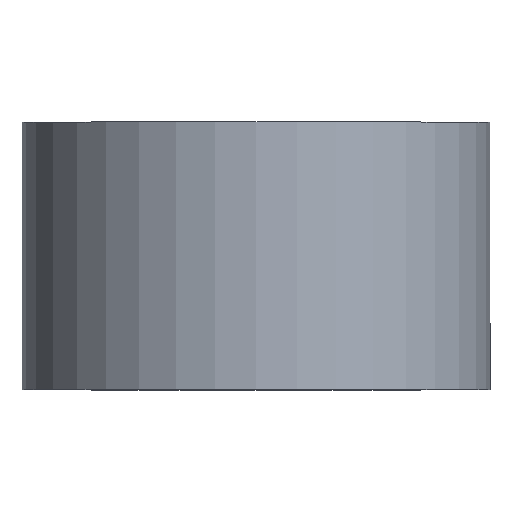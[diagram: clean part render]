
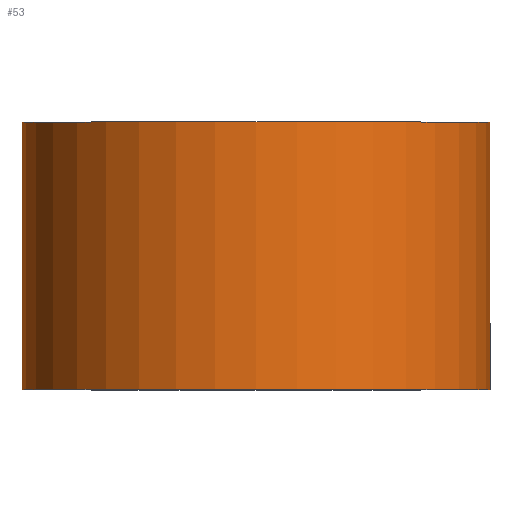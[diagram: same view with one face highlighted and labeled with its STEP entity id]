
A CAD part, top view. The second image highlights one B-rep face of the part: STEP entity #53.
In plain terms, the highlighted cylindrical face has radius 17.5 mm (diameter 35 mm), a partial arc.
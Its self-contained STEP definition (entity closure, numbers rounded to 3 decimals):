
#23 = VERTEX_POINT ( 'NONE', #241 ) ;
#24 = EDGE_CURVE ( 'NONE', #23, #95, #111, .T. ) ;
#25 = VECTOR ( 'NONE', #114, 1000. ) ;
#29 = AXIS2_PLACEMENT_3D ( 'NONE', #173, #79, #247 ) ;
#30 = CARTESIAN_POINT ( 'NONE',  ( 0., 0., 0. ) ) ;
#39 = CARTESIAN_POINT ( 'NONE',  ( -17.5, 0., 0. ) ) ;
#53 = ADVANCED_FACE ( 'NONE', ( #99 ), #288, .T. ) ;
#79 = DIRECTION ( 'NONE',  ( 0., 1., 0. ) ) ;
#81 = VECTOR ( 'NONE', #98, 1000. ) ;
#82 = CARTESIAN_POINT ( 'NONE',  ( 17.5, 0., 0. ) ) ;
#94 = CARTESIAN_POINT ( 'NONE',  ( 0., 20., 0. ) ) ;
#95 = VERTEX_POINT ( 'NONE', #131 ) ;
#97 = AXIS2_PLACEMENT_3D ( 'NONE', #30, #150, #292 ) ;
#98 = DIRECTION ( 'NONE',  ( 0., 1., 0. ) ) ;
#99 = FACE_OUTER_BOUND ( 'NONE', #116, .T. ) ;
#101 = LINE ( 'NONE', #104, #81 ) ;
#104 = CARTESIAN_POINT ( 'NONE',  ( 17.5, 0., 0. ) ) ;
#111 = CIRCLE ( 'NONE', #245, 17.5 ) ;
#113 = CIRCLE ( 'NONE', #29, 17.5 ) ;
#114 = DIRECTION ( 'NONE',  ( 0., 1., 0. ) ) ;
#116 = EDGE_LOOP ( 'NONE', ( #212, #118, #142, #280 ) ) ;
#118 = ORIENTED_EDGE ( 'NONE', *, *, #252, .T. ) ;
#120 = DIRECTION ( 'NONE',  ( -1., 0., 0. ) ) ;
#131 = CARTESIAN_POINT ( 'NONE',  ( 17.5, 20., 0. ) ) ;
#142 = ORIENTED_EDGE ( 'NONE', *, *, #24, .F. ) ;
#150 = DIRECTION ( 'NONE',  ( 0., 1., 0. ) ) ;
#157 = VERTEX_POINT ( 'NONE', #82 ) ;
#173 = CARTESIAN_POINT ( 'NONE',  ( 0., 0., 0. ) ) ;
#212 = ORIENTED_EDGE ( 'NONE', *, *, #215, .T. ) ;
#215 = EDGE_CURVE ( 'NONE', #261, #157, #113, .T. ) ;
#220 = DIRECTION ( 'NONE',  ( 0., 1., 0. ) ) ;
#221 = LINE ( 'NONE', #39, #25 ) ;
#230 = CARTESIAN_POINT ( 'NONE',  ( -17.5, 0., 0. ) ) ;
#241 = CARTESIAN_POINT ( 'NONE',  ( -17.5, 20., 0. ) ) ;
#245 = AXIS2_PLACEMENT_3D ( 'NONE', #94, #220, #120 ) ;
#247 = DIRECTION ( 'NONE',  ( -1., 0., 0. ) ) ;
#252 = EDGE_CURVE ( 'NONE', #157, #95, #101, .T. ) ;
#261 = VERTEX_POINT ( 'NONE', #230 ) ;
#280 = ORIENTED_EDGE ( 'NONE', *, *, #283, .F. ) ;
#283 = EDGE_CURVE ( 'NONE', #261, #23, #221, .T. ) ;
#288 = CYLINDRICAL_SURFACE ( 'NONE', #97, 17.5 ) ;
#292 = DIRECTION ( 'NONE',  ( -1., 0., 0. ) ) ;
